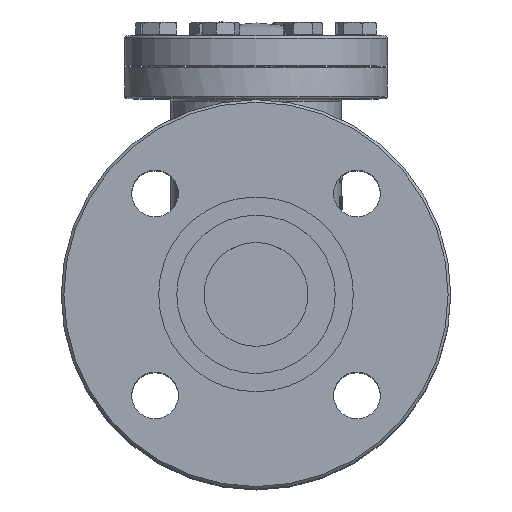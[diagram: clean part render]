
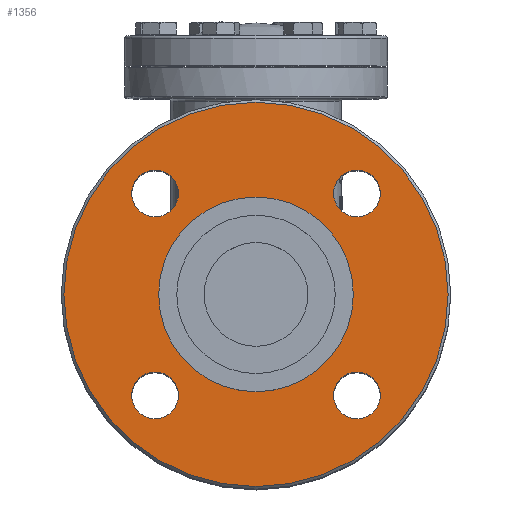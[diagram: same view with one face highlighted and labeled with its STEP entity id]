
A CAD part, top view. The second image highlights one B-rep face of the part: STEP entity #1356.
In plain terms, the highlighted planar face has unit normal (0, 0, 1).
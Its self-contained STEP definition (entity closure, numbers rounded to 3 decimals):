
#1356=ADVANCED_FACE('',(#5635,#5637,#5639,#5641,#5643,#5645),#5647,.F.);
#5635=FACE_BOUND('',#5636,.T.);
#5636=EDGE_LOOP('',(#8797));
#5637=FACE_BOUND('',#5638,.T.);
#5638=EDGE_LOOP('',(#8798));
#5639=FACE_BOUND('',#5640,.T.);
#5640=EDGE_LOOP('',(#8799));
#5641=FACE_BOUND('',#5642,.T.);
#5642=EDGE_LOOP('',(#8800));
#5643=FACE_BOUND('',#5644,.T.);
#5644=EDGE_LOOP('',(#8801));
#5645=FACE_BOUND('',#5646,.T.);
#5646=EDGE_LOOP('',(#8802));
#5647=PLANE('',#5648);
#5648=AXIS2_PLACEMENT_3D('',#5649,#5650,#5651);
#5649=CARTESIAN_POINT('',(0.,0.,95.5));
#5650=DIRECTION('',(0.,0.,-1.));
#5651=DIRECTION('',(0.,1.,0.));
#8797=ORIENTED_EDGE('',*,*,#10176,.F.);
#8798=ORIENTED_EDGE('',*,*,#10177,.T.);
#8799=ORIENTED_EDGE('',*,*,#10137,.F.);
#8800=ORIENTED_EDGE('',*,*,#10138,.F.);
#8801=ORIENTED_EDGE('',*,*,#10139,.F.);
#8802=ORIENTED_EDGE('',*,*,#10140,.F.);
#10137=EDGE_CURVE('',#11288,#11288,#11289,.T.);
#10138=EDGE_CURVE('',#11290,#11290,#11291,.T.);
#10139=EDGE_CURVE('',#11292,#11292,#11293,.T.);
#10140=EDGE_CURVE('',#11294,#11294,#11295,.T.);
#10176=EDGE_CURVE('',#11356,#11356,#11357,.F.);
#10177=EDGE_CURVE('',#11358,#11358,#11359,.T.);
#11288=VERTEX_POINT('',#19507);
#11289=CIRCLE('',#19508,9.);
#11290=VERTEX_POINT('',#19512);
#11291=CIRCLE('',#19513,9.);
#11292=VERTEX_POINT('',#19517);
#11293=CIRCLE('',#19518,9.);
#11294=VERTEX_POINT('',#19522);
#11295=CIRCLE('',#19523,9.);
#11356=VERTEX_POINT('',#20047);
#11357=CIRCLE('',#20048,74.);
#11358=VERTEX_POINT('',#20052);
#11359=CIRCLE('',#20053,37.5);
#19507=CARTESIAN_POINT('',(47.891,-38.891,95.5));
#19508=AXIS2_PLACEMENT_3D('',#19509,#19510,#19511);
#19509=CARTESIAN_POINT('',(38.891,-38.891,95.5));
#19510=DIRECTION('',(0.,0.,1.));
#19511=DIRECTION('',(1.,0.,0.));
#19512=CARTESIAN_POINT('',(-29.891,-38.891,95.5));
#19513=AXIS2_PLACEMENT_3D('',#19514,#19515,#19516);
#19514=CARTESIAN_POINT('',(-38.891,-38.891,95.5));
#19515=DIRECTION('',(0.,0.,1.));
#19516=DIRECTION('',(1.,0.,0.));
#19517=CARTESIAN_POINT('',(-29.891,38.891,95.5));
#19518=AXIS2_PLACEMENT_3D('',#19519,#19520,#19521);
#19519=CARTESIAN_POINT('',(-38.891,38.891,95.5));
#19520=DIRECTION('',(0.,0.,1.));
#19521=DIRECTION('',(1.,0.,0.));
#19522=CARTESIAN_POINT('',(47.891,38.891,95.5));
#19523=AXIS2_PLACEMENT_3D('',#19524,#19525,#19526);
#19524=CARTESIAN_POINT('',(38.891,38.891,95.5));
#19525=DIRECTION('',(0.,0.,1.));
#19526=DIRECTION('',(1.,0.,0.));
#20047=CARTESIAN_POINT('',(-74.,0.,95.5));
#20048=AXIS2_PLACEMENT_3D('',#20049,#20050,#20051);
#20049=CARTESIAN_POINT('',(0.,0.,95.5));
#20050=DIRECTION('',(0.,0.,1.));
#20051=DIRECTION('',(-1.,0.,0.));
#20052=CARTESIAN_POINT('',(0.,37.5,95.5));
#20053=AXIS2_PLACEMENT_3D('',#20054,#20055,#20056);
#20054=CARTESIAN_POINT('',(0.,0.,95.5));
#20055=DIRECTION('',(0.,0.,-1.));
#20056=DIRECTION('',(0.,1.,0.));
